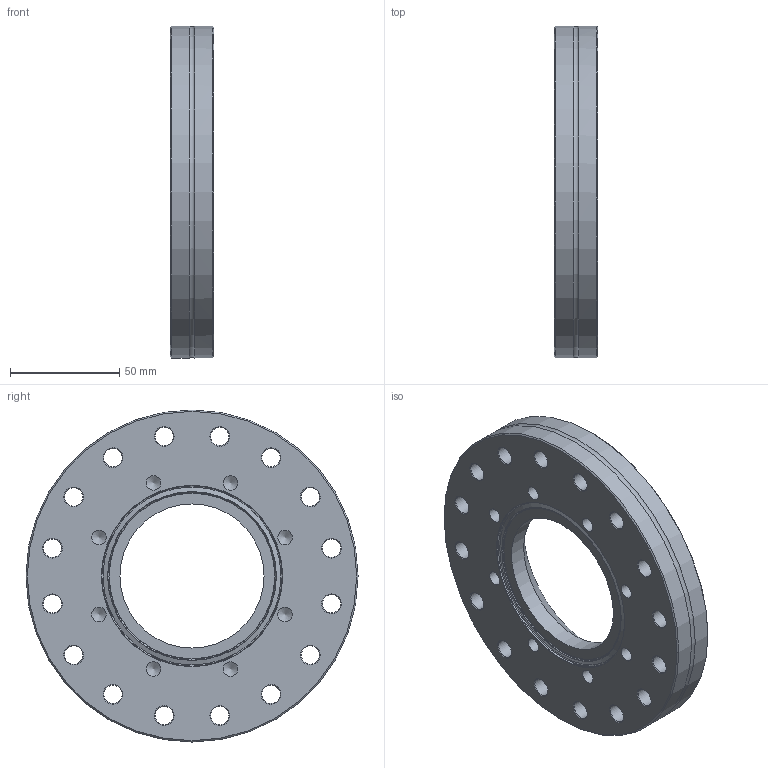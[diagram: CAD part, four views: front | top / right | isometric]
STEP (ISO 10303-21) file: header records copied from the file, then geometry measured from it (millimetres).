
FILE_DESCRIPTION((''),'2;1');
FILE_NAME('W:\13785_CF_Global_Fit_Umsetzung\097_Reducing_Flange\M213-076.stp','2010-09-01T12:50:58',('KAA'),(''),'Autodesk Inventor 2011','Autodesk Inventor 2011','');
FILE_SCHEMA(('AUTOMOTIVE_DESIGN { 1 0 10303 214 1 1 1 1 }'));
Length unit declared in the file: millimetre
Products named in the file (1): 213-076
Bounding box: 20 x 152 x 152 mm (x, y, z)
Volume: 249246.3 mm3; surface area: 51174.3 mm2
Topology: 1 solids, 1 shells, 92 faces, 225 edges, 137 vertices
Faces by surface type: cone 52, cylinder 28, torus 7, plane 5
Full cylindrical faces by diameter (mm): 6.647 x8, 8.4 x16, 66 x1, 152 x2
Entity records: 2174 total; most frequent: DIRECTION 402, CARTESIAN_POINT 356, ORIENTED_EDGE 232, EDGE_LOOP 212, AXIS2_PLACEMENT_3D 200, FACE_BOUND 120, EDGE_CURVE 116, VERTEX_POINT 112
